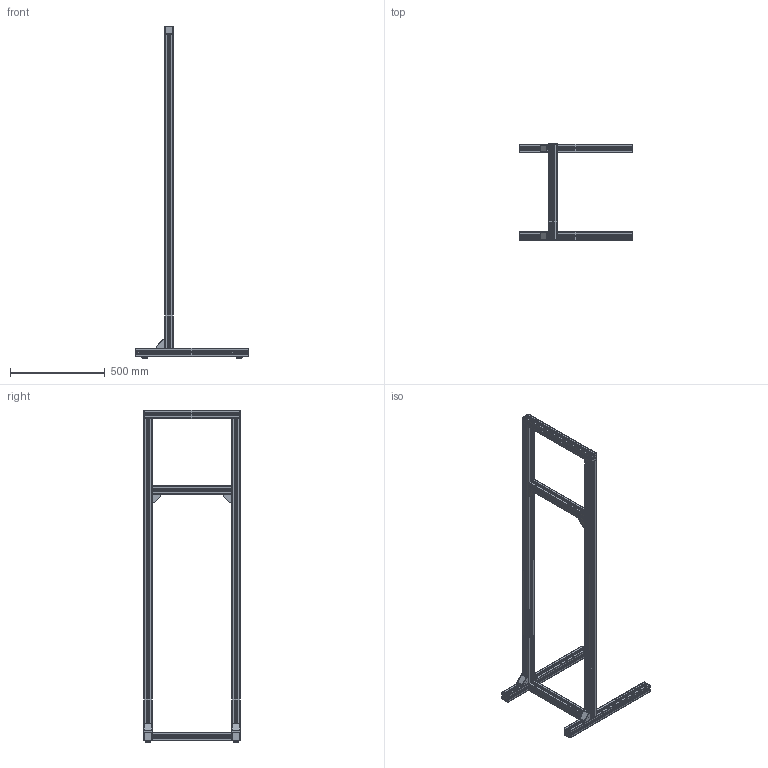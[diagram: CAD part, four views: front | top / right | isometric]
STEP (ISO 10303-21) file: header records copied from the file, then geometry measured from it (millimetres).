
FILE_DESCRIPTION(('STEP AP242'),'1');
FILE_NAME('ARMCH_50A.stp','2025-05-05T08:24:01',(' '),(' '),'Spatial InterOp 3D',' ',' ');
FILE_SCHEMA(('AP242_MANAGED_MODEL_BASED_3D_ENGINEERING_MIM_LF {1 0 10303 442 1 1 4}'));
Length unit declared in the file: millimetre
Products named in the file (13): ARMCH_50A; équerre 45/45 - noir; Equerre 45/45; Vis centrale M12x30-T50; Pied; 45x45 - noir; 45x45L
Assembly tree (31 placements, depth 2):
  ARMCH_50A
    équerre 45/45 - noir  x4
    Equerre 45/45  x4
    Vis centrale M12x30-T50  x6
    Pied  x4
    45x45 - noir  x6
    45x45L
    45x45L
    45x45L
    45x45L
    45x45L
    45x45L
    45x45L
Bounding box: 600 x 509 x 1752.5 mm (x, y, z)
Volume: 3526158.3 mm3; surface area: 3694799 mm2
Topology: 31 solids, 31 shells, 1894 faces, 5372 edges, 3536 vertices
Faces by surface type: plane 974, cylinder 778, cone 64, torus 54, bspline 24
Full cylindrical faces by diameter (mm): 9.8 x12, 9.9 x6, 10.5 x4, 12 x6, 19 x6
Entity records: 63983 total; most frequent: CARTESIAN_POINT 10472, ORIENTED_EDGE 8662, DIRECTION 8319, EDGE_CURVE 4331, LINE 3009, VECTOR 3009, VERTEX_POINT 2888, AXIS2_PLACEMENT_3D 2655
